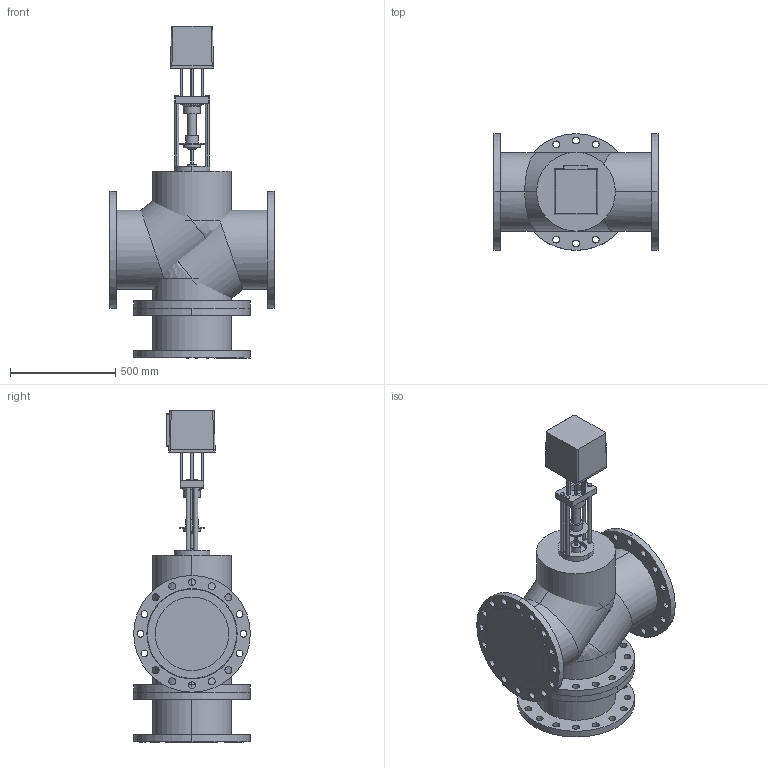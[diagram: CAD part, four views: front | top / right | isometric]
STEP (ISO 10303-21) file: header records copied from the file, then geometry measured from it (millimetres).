
FILE_DESCRIPTION(/* description */ (''),/* implementation_level */ '2;1');
FILE_NAME(/* name */ 'ТРК DN350 PN 2.5 МПа LEA 26000',/* time_stamp */ '2026-07-14T23:09:31+03:00',/* author */ (''),/* organization */ (''),/* preprocessor_version */ 'ST-DEVELOPER v20',/* originating_system */ '',/* authorisation */ '');
FILE_SCHEMA (('AP242_MANAGED_MODEL_BASED_3D_ENGINEERING_MIM_LF { 1 0 10303 442 1 1 4 }'));
Length unit declared in the file: millimetre
Products named in the file (16): TopLevelAssembly; Выдавливание; Модификатор; Модификатор_1; Выдавливание_
1; Выдавливание_
2; Вращение; Выдавливание_
3; Выдавливание_
4; Выдавливание_
5; Выдавливание_
6; Выдавливание_
7; 1600; Переход; Объемная геометрия 
присоединена; Объемная геометрия 
присоединена_1
Assembly tree (15 placements, depth 2):
  TopLevelAssembly
    Выдавливание
    Модификатор
    Модификатор_1
    Выдавливание_
1
    Выдавливание_
2
    Вращение
    Выдавливание_
3
    Выдавливание_
4
    Выдавливание_
5
    Выдавливание_
6
    Выдавливание_
7
    1600
    Переход
    Объемная геометрия 
присоединена
    Объемная геометрия 
присоединена_1
Bounding box: 787 x 555 x 1580 mm (x, y, z)
Volume: 233664899.4 mm3; surface area: 6765343.2 mm2
Topology: 24 solids, 24 shells, 369 faces, 914 edges, 596 vertices
Faces by surface type: cylinder 256, plane 95, bspline 14, cone 4
Entity records: 12375 total; most frequent: DIRECTION 2224, CARTESIAN_POINT 2174, ORIENTED_EDGE 1812, AXIS2_PLACEMENT_3D 932, EDGE_CURVE 906, VERTEX_POINT 596, EDGE_LOOP 552, CIRCLE 534
